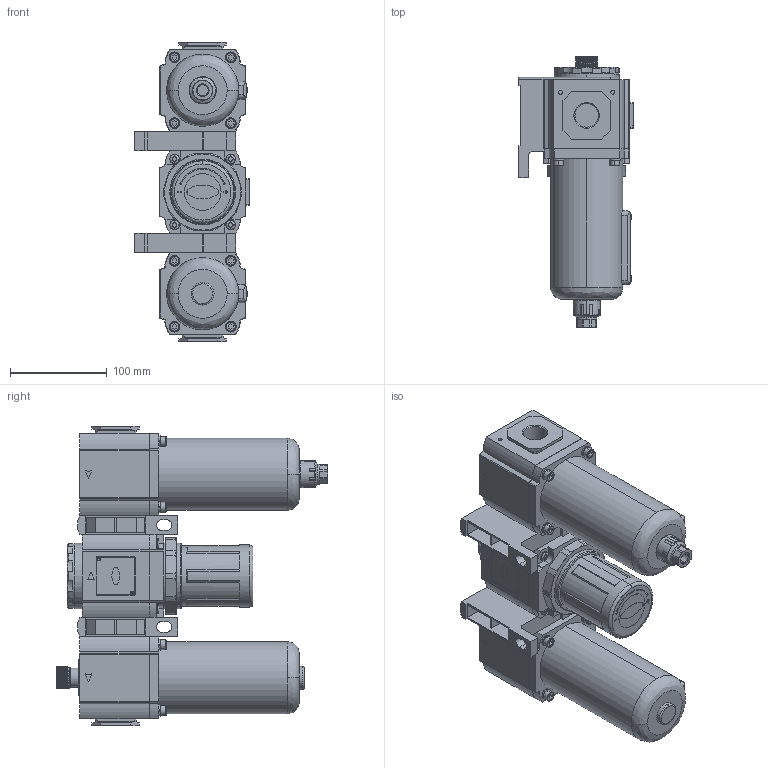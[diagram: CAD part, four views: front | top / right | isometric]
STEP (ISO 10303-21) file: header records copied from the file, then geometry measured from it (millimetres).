
FILE_DESCRIPTION (( 'STEP AP214' ), '1' );
FILE_NAME ('GC-600-20-F1.STEP', '2016-01-22T14:49:41', ( '' ), ( '' ), 'SwSTEP 2.0', 'SolidWorks 2016', '' );
FILE_SCHEMA (( 'AUTOMOTIVE_DESIGN' ));
Length unit declared in the file: millimetre
Products named in the file (29): 11; 6; 3; 9; 24; 4; 23; 22; 20; 21; GC-600-20-F1; 17; 28; 16; 19; 25; 14; 18; 13; 7; 15; 2; 12; 10; 27; 26; 1; 5; 8
Assembly tree (28 placements, depth 2):
  GC-600-20-F1
    1
    2
    3
    4
    5
    6
    7
    8
    9
    10
    11
    12
    13
    14
    15
    16
    17
    18
    19
    20
    21
    22
    23
    24
    25
    26
    27
    28
Bounding box: 118 x 280.5 x 309 mm (x, y, z)
Volume: 2519801.5 mm3; surface area: 486281.5 mm2
Topology: 28 solids, 28 shells, 2010 faces, 5148 edges, 3385 vertices
Faces by surface type: plane 1212, cylinder 609, bspline 105, cone 84
Entity records: 89405 total; most frequent: CARTESIAN_POINT 17000, ORIENTED_EDGE 10296, DIRECTION 10118, EDGE_CURVE 5148, AXIS2_PLACEMENT_3D 3468, VERTEX_POINT 3385, VECTOR 3182, LINE 3182
